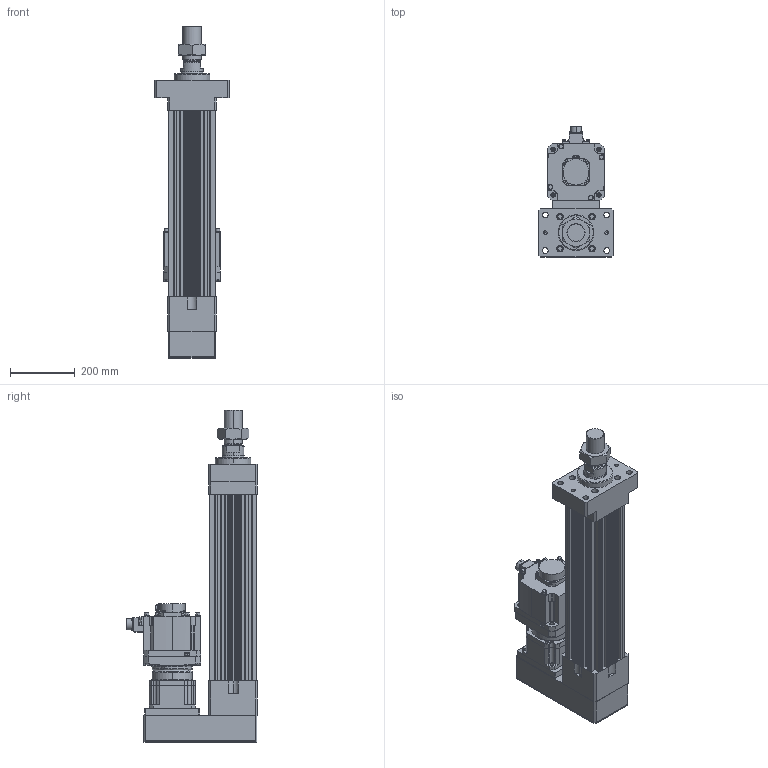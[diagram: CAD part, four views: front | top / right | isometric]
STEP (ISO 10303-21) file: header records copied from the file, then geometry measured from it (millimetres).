
FILE_DESCRIPTION (( 'STEP AP203' ), '1' );
FILE_NAME ('HES150NS(HS)-P300-W035G00-M-FMA.STEP', '2023-01-31T10:17:40', ( 'tms' ), ( '' ), 'SwSTEP 2.0', 'SolidWorks 2013', '' );
FILE_SCHEMA (( 'CONFIG_CONTROL_DESIGN' ));
Length unit declared in the file: millimetre
Products named in the file (9): P1301500001; AB142-003[HG-SR352]; HES150 ROD M ST300; HES150NS(HS)-P300-W035G00-M-FMA; AB1421; HES150-P300-G142-FMA; M56X2.0P; HG-SR352; P0403500801
Assembly tree (8 placements, depth 3):
  HES150NS(HS)-P300-W035G00-M-FMA
    HES150-P300-G142-FMA
    HES150 ROD M ST300
    M56X2.0P
    AB142-003[HG-SR352]
      AB1421
      P1301500001
      P0403500801
    HG-SR352
Bounding box: 230 x 403.85 x 1026 mm (x, y, z)
Volume: 18513790.7 mm3; surface area: 1764999.2 mm2
Topology: 4 solids, 18 shells, 1426 faces, 3722 edges, 2416 vertices
Faces by surface type: cylinder 669, plane 531, cone 144, bspline 76, torus 6
Entity records: 52806 total; most frequent: CARTESIAN_POINT 16363, DIRECTION 7620, ORIENTED_EDGE 7346, EDGE_CURVE 3695, AXIS2_PLACEMENT_3D 2898, VERTEX_POINT 2416, LINE 1824, VECTOR 1824
